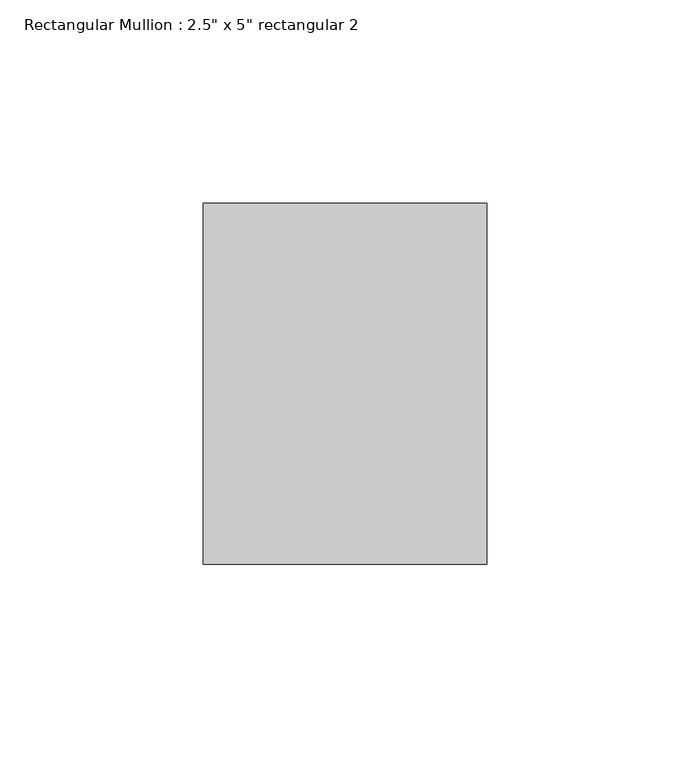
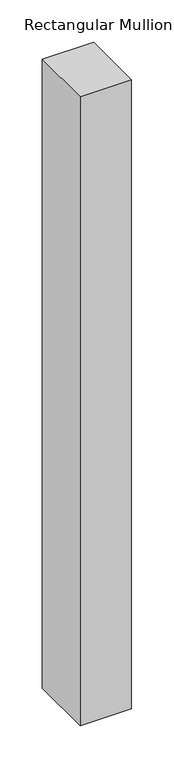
"""IFC4 building model written with IfcOpenShell, lengths in millimetres: member geometry."""

from ifc_helpers import new_model, si_unit, frame, origin, place, context, project, spatial, polyline, outline, extrude, source, transform, mapped, element, save


def member_b4d524fc(model_context):
    return source(origin(), model_context, "Body", "SweptSolid", [
        extrude(outline(polyline([(0.0, 44.45), (0.0, -44.45), (-69.85, -44.45), (-69.85, 44.45), (0.0, 44.45)])), frame((0.0, 0.0, -906.3559364), z_axis=(0.0, 0.0, 1.0), x_axis=(1.0, 0.0, 0.0)), (0.0, 0.0, 1.0), 906.3559364),
    ])


if __name__ == "__main__":
    model = new_model("IFC4")
    model_context = context("Model", 3, world=origin())
    ifc_project = project(units=[si_unit("LENGTHUNIT", "METRE", prefix="MILLI")], contexts=[model_context])
    site = spatial("IfcSite", under=ifc_project)
    building = spatial("IfcBuilding", under=site)
    placement = place(None, origin())
    member_shape = member_b4d524fc(model_context)
    element("IfcMember", 1, ObjectType="Rectangular Mullion : 2.5\" x 5\" rectangular 2", at=placement, inside=building, context=model_context, shape_type="MappedRepresentation", body=[
        mapped(member_shape, transform((0.0, 0.0, 0.0), x_axis=(1.0, 0.0, 0.0), y_axis=(0.0, 1.0, 0.0), z_axis=(0.0, 0.0, 1.0))),
    ])
    save(model, "model.ifc")
